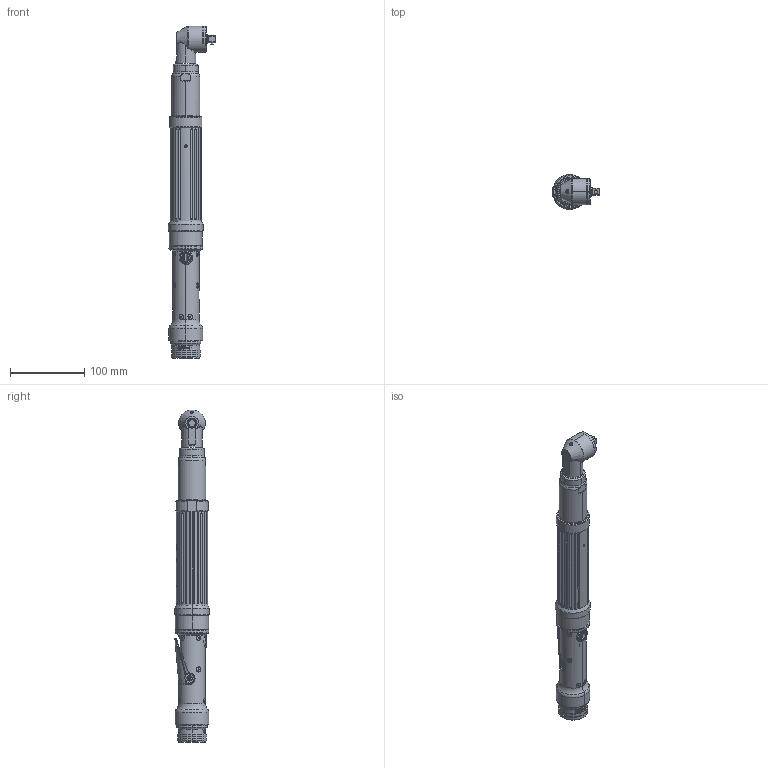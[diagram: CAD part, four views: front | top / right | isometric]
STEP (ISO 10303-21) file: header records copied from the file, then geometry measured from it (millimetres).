
FILE_DESCRIPTION (( 'STEP AP214' ), '1' );
FILE_NAME ('AEN33053C.STEP', '2016-04-15T15:50:34', ( 'AIMCO' ), ( '' ), 'SwSTEP 2.0', 'SolidWorks 2016', '' );
FILE_SCHEMA (( 'AUTOMOTIVE_DESIGN' ));
Length unit declared in the file: inch
Products named in the file (1): AEN33053C
Bounding box: 63.58 x 46.99 x 445.78 mm (x, y, z)
Surface area: 84640.7 mm2 (no closed solid volume)
Topology: 0 solids, 89 shells, 897 faces, 3208 edges, 2255 vertices
Faces by surface type: cylinder 217, cone 177, plane 175, bspline 153, torus 131, sphere 44
Entity records: 64740 total; most frequent: CARTESIAN_POINT 28799, ORIENTED_EDGE 4743, DIRECTION 4476, EDGE_CURVE 3126, VERTEX_POINT 2215, AXIS2_PLACEMENT_3D 1793, B_SPLINE_CURVE_WITH_KNOTS 1153, CIRCLE 1048
